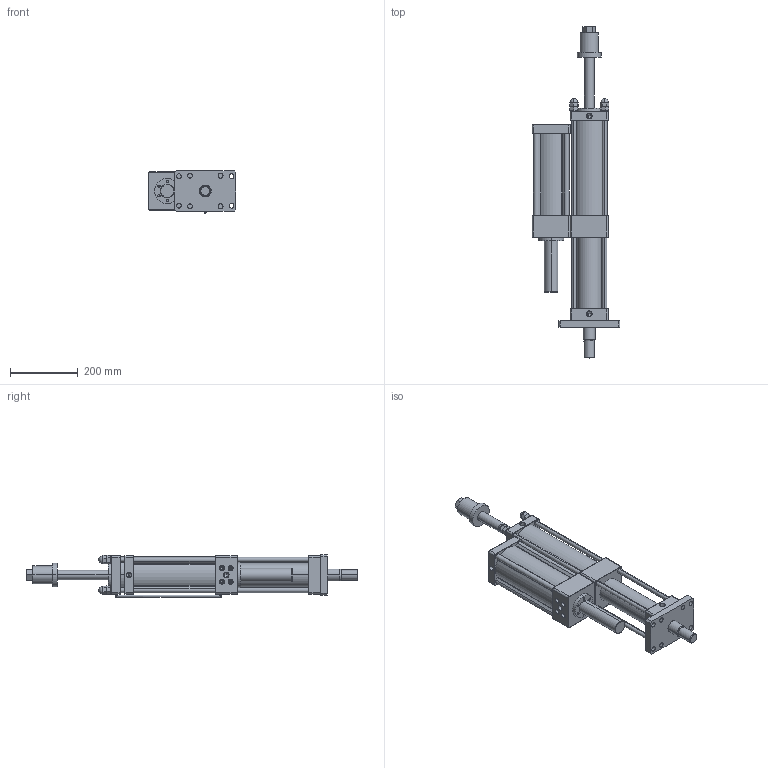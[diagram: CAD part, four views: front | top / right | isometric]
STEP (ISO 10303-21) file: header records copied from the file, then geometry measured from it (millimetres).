
FILE_DESCRIPTION (( 'STEP AP203' ), '1' );
FILE_NAME ('MPTD-80-150-10-8T.STEP', '2016-03-18T02:25:29', ( 'WIN' ), ( '' ), 'SwSTEP 2.0', 'SolidWorks 2014', '' );
FILE_SCHEMA (( 'CONFIG_CONTROL_DESIGN' ));
Length unit declared in the file: millimetre
Products named in the file (1): MPTD-80-150-10-8T
Bounding box: 258 x 977 x 124 mm (x, y, z)
Volume: 4882474.9 mm3; surface area: 960583.4 mm2
Topology: 5 solids, 13 shells, 566 faces, 1323 edges, 817 vertices
Faces by surface type: plane 303, cylinder 199, cone 56, torus 8
Entity records: 16004 total; most frequent: CARTESIAN_POINT 2957, DIRECTION 2821, ORIENTED_EDGE 2594, EDGE_CURVE 1297, AXIS2_PLACEMENT_3D 1049, VERTEX_POINT 817, LINE 723, VECTOR 723
